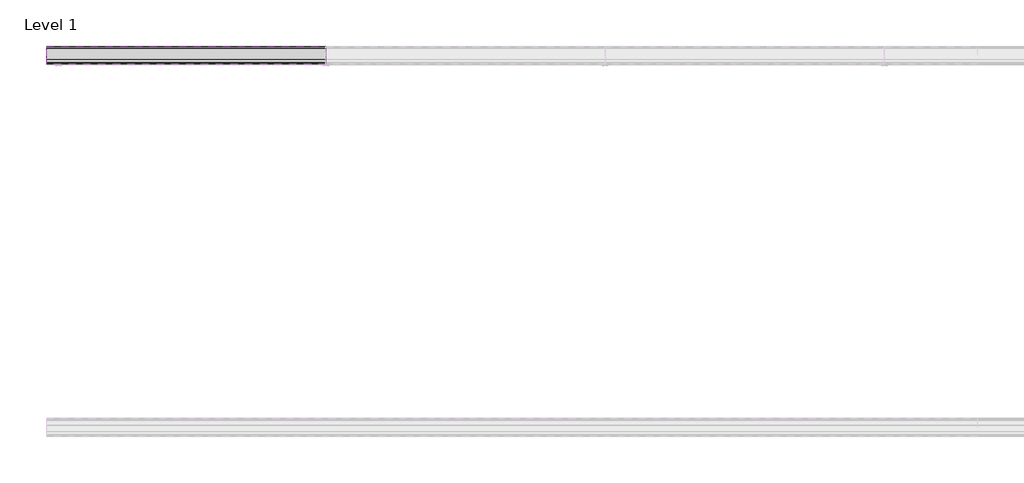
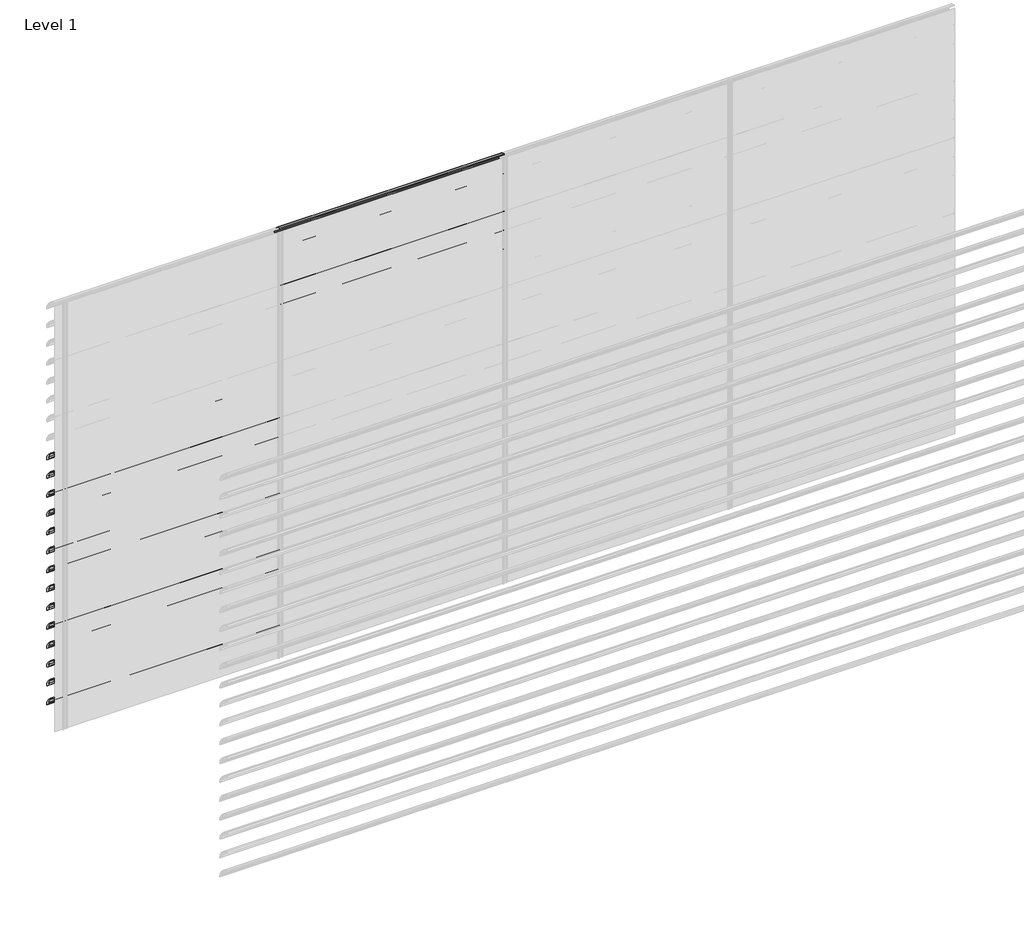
# One storey, part 54 of 57: 21 proxies.
"""IFC4 building model written with IfcOpenShell, lengths in millimetres."""

from ifc_helpers import new_model, si_unit, point, frame, frame_2d, origin, place, context, project, spatial, polyline, circle_curve, trimmed, segment, composite_curve, outline, extrude, element, save

model = new_model("IFC4")

# Units and contexts
model_context = context("Model", 3, world=origin())
ifc_project = project(units=[si_unit("LENGTHUNIT", "METRE", prefix="MILLI")], contexts=[model_context])

# Site, building, storey
site = spatial("IfcSite", under=ifc_project)
building = spatial("IfcBuilding", under=site)
storey = spatial("IfcBuildingStorey", under=building, Name="Level 1", Elevation=0.0)

# Proxies
placement = place(None, origin())
element("IfcBuildingElementProxy", 1, Name="Wall Sweeps", at=placement, inside=storey, context=model_context, shape_type="SweptSolid", body=[
    extrude(outline(composite_curve([segment(trimmed(circle_curve(frame_2d((6.2177474, 1952.4913792)), 4.2177474), [point((10.3014394, 1953.5462976))], [point((6.2177474, 1956.7091266))], False, "CARTESIAN"), True, "CONTINUOUS"), segment(trimmed(circle_curve(frame_2d((-18.7150834, 1854.2536312)), 105.4456002), [point((6.2177474, 1956.7091266))], [point((28.2085702, 1948.6832099))], False, "CARTESIAN"), True, "CONTINUOUS"), segment(trimmed(circle_curve(frame_2d((-61.7199745, 1800.0352476)), 173.7335887), [point((28.2085702, 1948.6832099))], [point((86.9279879, 1889.9637922))], False, "CARTESIAN"), True, "CONTINUOUS"), segment(trimmed(circle_curve(frame_2d((-4.9297178, 1838.1860314)), 105.4456002), [point((86.9279879, 1889.9637922))], [point((96.3750384, 1867.4455765))], False, "CARTESIAN"), True, "CONTINUOUS"), segment(trimmed(circle_curve(frame_2d((92.190263, 1866.3307305)), 4.3307305), [point((96.3750384, 1867.4455765))], [point((90.9230804, 1862.189538))], False, "CARTESIAN"), True, "CONTINUOUS"), segment(polyline([(90.9230804, 1862.189538), (65.2598016, 1886.9722783)]), True, "CONTINUOUS"), segment(trimmed(circle_curve(frame_2d((68.6120426, 1889.2977626)), 4.079877), [point((65.2598016, 1886.9722783))], [point((69.2689403, 1893.3244091))], False, "CARTESIAN"), True, "CONTINUOUS"), segment(trimmed(circle_curve(frame_2d((-14.6665585, 1871.2544323)), 86.7885467), [point((69.2689403, 1893.3244091))], [point((57.6971649, 1919.1683485))], True, "CARTESIAN"), True, "CONTINUOUS"), segment(polyline([(57.6971649, 1919.1683485), (59.2769901, 1921.9046861)]), True, "CONTINUOUS"), segment(trimmed(circle_curve(frame_2d((-61.7199745, 1800.0352476)), 171.7335887), [point((59.2769901, 1921.9046861))], [point((27.2444128, 1946.9289618))], True, "CARTESIAN"), True, "CONTINUOUS"), segment(trimmed(circle_curve(frame_2d((-18.7150834, 1854.2536312)), 103.4456002), [point((27.2444128, 1946.9289618))], [point((10.3014394, 1953.5462976))], True, "CARTESIAN"), True, "CONTINUOUS")], self_intersect=False)), frame((0.0, 0.0, 0.0), z_axis=(1.0, 0.0, 0.0), x_axis=(0.0, 1.0, 0.0)), (0.0, 0.0, 1.0), 1500.0),
])
element("IfcBuildingElementProxy", 2, Name="Wall Sweeps", at=placement, inside=storey, context=model_context, shape_type="SweptSolid", body=[
    extrude(outline(composite_curve([segment(trimmed(circle_curve(frame_2d((6.2177474, 1819.4913792)), 4.2177474), [point((10.3014394, 1820.5462976))], [point((6.2177474, 1823.7091266))], False, "CARTESIAN"), True, "CONTINUOUS"), segment(trimmed(circle_curve(frame_2d((-18.7150834, 1721.2536312)), 105.4456002), [point((6.2177474, 1823.7091266))], [point((28.2085702, 1815.6832099))], False, "CARTESIAN"), True, "CONTINUOUS"), segment(trimmed(circle_curve(frame_2d((-61.7199745, 1667.0352476)), 173.7335887), [point((28.2085702, 1815.6832099))], [point((86.9279879, 1756.9637922))], False, "CARTESIAN"), True, "CONTINUOUS"), segment(trimmed(circle_curve(frame_2d((-4.9297178, 1705.1860314)), 105.4456002), [point((86.9279879, 1756.9637922))], [point((96.3750384, 1734.4455765))], False, "CARTESIAN"), True, "CONTINUOUS"), segment(trimmed(circle_curve(frame_2d((92.190263, 1733.3307305)), 4.3307305), [point((96.3750384, 1734.4455765))], [point((90.9230804, 1729.189538))], False, "CARTESIAN"), True, "CONTINUOUS"), segment(polyline([(90.9230804, 1729.189538), (65.2598016, 1753.9722783)]), True, "CONTINUOUS"), segment(trimmed(circle_curve(frame_2d((68.6120426, 1756.2977626)), 4.079877), [point((65.2598016, 1753.9722783))], [point((69.2689403, 1760.3244091))], False, "CARTESIAN"), True, "CONTINUOUS"), segment(trimmed(circle_curve(frame_2d((-14.6665585, 1738.2544323)), 86.7885467), [point((69.2689403, 1760.3244091))], [point((57.6971649, 1786.1683485))], True, "CARTESIAN"), True, "CONTINUOUS"), segment(polyline([(57.6971649, 1786.1683485), (59.2769901, 1788.9046861)]), True, "CONTINUOUS"), segment(trimmed(circle_curve(frame_2d((-61.7199745, 1667.0352476)), 171.7335887), [point((59.2769901, 1788.9046861))], [point((27.2444128, 1813.9289618))], True, "CARTESIAN"), True, "CONTINUOUS"), segment(trimmed(circle_curve(frame_2d((-18.7150834, 1721.2536312)), 103.4456002), [point((27.2444128, 1813.9289618))], [point((10.3014394, 1820.5462976))], True, "CARTESIAN"), True, "CONTINUOUS")], self_intersect=False)), frame((0.0, 0.0, 0.0), z_axis=(1.0, 0.0, 0.0), x_axis=(0.0, 1.0, 0.0)), (0.0, 0.0, 1.0), 1500.0),
])
element("IfcBuildingElementProxy", 3, Name="Wall Sweeps", at=placement, inside=storey, context=model_context, shape_type="SweptSolid", body=[
    extrude(outline(composite_curve([segment(trimmed(circle_curve(frame_2d((6.2177474, 1686.4913792)), 4.2177474), [point((10.3014394, 1687.5462976))], [point((6.2177474, 1690.7091266))], False, "CARTESIAN"), True, "CONTINUOUS"), segment(trimmed(circle_curve(frame_2d((-18.7150834, 1588.2536312)), 105.4456002), [point((6.2177474, 1690.7091266))], [point((28.2085702, 1682.6832099))], False, "CARTESIAN"), True, "CONTINUOUS"), segment(trimmed(circle_curve(frame_2d((-61.7199745, 1534.0352476)), 173.7335887), [point((28.2085702, 1682.6832099))], [point((86.9279879, 1623.9637922))], False, "CARTESIAN"), True, "CONTINUOUS"), segment(trimmed(circle_curve(frame_2d((-4.9297178, 1572.1860314)), 105.4456002), [point((86.9279879, 1623.9637922))], [point((96.3750384, 1601.4455765))], False, "CARTESIAN"), True, "CONTINUOUS"), segment(trimmed(circle_curve(frame_2d((92.190263, 1600.3307305)), 4.3307305), [point((96.3750384, 1601.4455765))], [point((90.9230804, 1596.189538))], False, "CARTESIAN"), True, "CONTINUOUS"), segment(polyline([(90.9230804, 1596.189538), (65.2598016, 1620.9722783)]), True, "CONTINUOUS"), segment(trimmed(circle_curve(frame_2d((68.6120426, 1623.2977626)), 4.079877), [point((65.2598016, 1620.9722783))], [point((69.2689403, 1627.3244091))], False, "CARTESIAN"), True, "CONTINUOUS"), segment(trimmed(circle_curve(frame_2d((-14.6665585, 1605.2544323)), 86.7885467), [point((69.2689403, 1627.3244091))], [point((57.6971649, 1653.1683485))], True, "CARTESIAN"), True, "CONTINUOUS"), segment(polyline([(57.6971649, 1653.1683485), (59.2769901, 1655.9046861)]), True, "CONTINUOUS"), segment(trimmed(circle_curve(frame_2d((-61.7199745, 1534.0352476)), 171.7335887), [point((59.2769901, 1655.9046861))], [point((27.2444128, 1680.9289618))], True, "CARTESIAN"), True, "CONTINUOUS"), segment(trimmed(circle_curve(frame_2d((-18.7150834, 1588.2536312)), 103.4456002), [point((27.2444128, 1680.9289618))], [point((10.3014394, 1687.5462976))], True, "CARTESIAN"), True, "CONTINUOUS")], self_intersect=False)), frame((0.0, 0.0, 0.0), z_axis=(1.0, 0.0, 0.0), x_axis=(0.0, 1.0, 0.0)), (0.0, 0.0, 1.0), 1500.0),
])
element("IfcBuildingElementProxy", 4, Name="Wall Sweeps", at=placement, inside=storey, context=model_context, shape_type="SweptSolid", body=[
    extrude(outline(composite_curve([segment(trimmed(circle_curve(frame_2d((6.2177474, 1553.4913792)), 4.2177474), [point((10.3014394, 1554.5462976))], [point((6.2177474, 1557.7091266))], False, "CARTESIAN"), True, "CONTINUOUS"), segment(trimmed(circle_curve(frame_2d((-18.7150834, 1455.2536312)), 105.4456002), [point((6.2177474, 1557.7091266))], [point((28.2085702, 1549.6832099))], False, "CARTESIAN"), True, "CONTINUOUS"), segment(trimmed(circle_curve(frame_2d((-61.7199745, 1401.0352476)), 173.7335887), [point((28.2085702, 1549.6832099))], [point((86.9279879, 1490.9637922))], False, "CARTESIAN"), True, "CONTINUOUS"), segment(trimmed(circle_curve(frame_2d((-4.9297178, 1439.1860314)), 105.4456002), [point((86.9279879, 1490.9637922))], [point((96.3750384, 1468.4455765))], False, "CARTESIAN"), True, "CONTINUOUS"), segment(trimmed(circle_curve(frame_2d((92.190263, 1467.3307305)), 4.3307305), [point((96.3750384, 1468.4455765))], [point((90.9230804, 1463.189538))], False, "CARTESIAN"), True, "CONTINUOUS"), segment(polyline([(90.9230804, 1463.189538), (65.2598016, 1487.9722783)]), True, "CONTINUOUS"), segment(trimmed(circle_curve(frame_2d((68.6120426, 1490.2977626)), 4.079877), [point((65.2598016, 1487.9722783))], [point((69.2689403, 1494.3244091))], False, "CARTESIAN"), True, "CONTINUOUS"), segment(trimmed(circle_curve(frame_2d((-14.6665585, 1472.2544323)), 86.7885467), [point((69.2689403, 1494.3244091))], [point((57.6971649, 1520.1683485))], True, "CARTESIAN"), True, "CONTINUOUS"), segment(polyline([(57.6971649, 1520.1683485), (59.2769901, 1522.9046861)]), True, "CONTINUOUS"), segment(trimmed(circle_curve(frame_2d((-61.7199745, 1401.0352476)), 171.7335887), [point((59.2769901, 1522.9046861))], [point((27.2444128, 1547.9289618))], True, "CARTESIAN"), True, "CONTINUOUS"), segment(trimmed(circle_curve(frame_2d((-18.7150834, 1455.2536312)), 103.4456002), [point((27.2444128, 1547.9289618))], [point((10.3014394, 1554.5462976))], True, "CARTESIAN"), True, "CONTINUOUS")], self_intersect=False)), frame((0.0, 0.0, 0.0), z_axis=(1.0, 0.0, 0.0), x_axis=(0.0, 1.0, 0.0)), (0.0, 0.0, 1.0), 1500.0),
])
element("IfcBuildingElementProxy", 5, Name="Wall Sweeps", at=placement, inside=storey, context=model_context, shape_type="SweptSolid", body=[
    extrude(outline(composite_curve([segment(trimmed(circle_curve(frame_2d((6.2177474, 1420.4913792)), 4.2177474), [point((10.3014394, 1421.5462976))], [point((6.2177474, 1424.7091266))], False, "CARTESIAN"), True, "CONTINUOUS"), segment(trimmed(circle_curve(frame_2d((-18.7150834, 1322.2536312)), 105.4456002), [point((6.2177474, 1424.7091266))], [point((28.2085702, 1416.6832099))], False, "CARTESIAN"), True, "CONTINUOUS"), segment(trimmed(circle_curve(frame_2d((-61.7199745, 1268.0352476)), 173.7335887), [point((28.2085702, 1416.6832099))], [point((86.9279879, 1357.9637922))], False, "CARTESIAN"), True, "CONTINUOUS"), segment(trimmed(circle_curve(frame_2d((-4.9297178, 1306.1860314)), 105.4456002), [point((86.9279879, 1357.9637922))], [point((96.3750384, 1335.4455765))], False, "CARTESIAN"), True, "CONTINUOUS"), segment(trimmed(circle_curve(frame_2d((92.190263, 1334.3307305)), 4.3307305), [point((96.3750384, 1335.4455765))], [point((90.9230804, 1330.189538))], False, "CARTESIAN"), True, "CONTINUOUS"), segment(polyline([(90.9230804, 1330.189538), (65.2598016, 1354.9722783)]), True, "CONTINUOUS"), segment(trimmed(circle_curve(frame_2d((68.6120426, 1357.2977626)), 4.079877), [point((65.2598016, 1354.9722783))], [point((69.2689403, 1361.3244091))], False, "CARTESIAN"), True, "CONTINUOUS"), segment(trimmed(circle_curve(frame_2d((-14.6665585, 1339.2544323)), 86.7885467), [point((69.2689403, 1361.3244091))], [point((57.6971649, 1387.1683485))], True, "CARTESIAN"), True, "CONTINUOUS"), segment(polyline([(57.6971649, 1387.1683485), (59.2769901, 1389.9046861)]), True, "CONTINUOUS"), segment(trimmed(circle_curve(frame_2d((-61.7199745, 1268.0352476)), 171.7335887), [point((59.2769901, 1389.9046861))], [point((27.2444128, 1414.9289618))], True, "CARTESIAN"), True, "CONTINUOUS"), segment(trimmed(circle_curve(frame_2d((-18.7150834, 1322.2536312)), 103.4456002), [point((27.2444128, 1414.9289618))], [point((10.3014394, 1421.5462976))], True, "CARTESIAN"), True, "CONTINUOUS")], self_intersect=False)), frame((0.0, 0.0, 0.0), z_axis=(1.0, 0.0, 0.0), x_axis=(0.0, 1.0, 0.0)), (0.0, 0.0, 1.0), 1500.0),
])
element("IfcBuildingElementProxy", 6, Name="Wall Sweeps", at=placement, inside=storey, context=model_context, shape_type="SweptSolid", body=[
    extrude(outline(composite_curve([segment(trimmed(circle_curve(frame_2d((6.2177474, 1287.4913792)), 4.2177474), [point((10.3014394, 1288.5462976))], [point((6.2177474, 1291.7091266))], False, "CARTESIAN"), True, "CONTINUOUS"), segment(trimmed(circle_curve(frame_2d((-18.7150834, 1189.2536312)), 105.4456002), [point((6.2177474, 1291.7091266))], [point((28.2085702, 1283.6832099))], False, "CARTESIAN"), True, "CONTINUOUS"), segment(trimmed(circle_curve(frame_2d((-61.7199745, 1135.0352476)), 173.7335887), [point((28.2085702, 1283.6832099))], [point((86.9279879, 1224.9637922))], False, "CARTESIAN"), True, "CONTINUOUS"), segment(trimmed(circle_curve(frame_2d((-4.9297178, 1173.1860314)), 105.4456002), [point((86.9279879, 1224.9637922))], [point((96.3750384, 1202.4455765))], False, "CARTESIAN"), True, "CONTINUOUS"), segment(trimmed(circle_curve(frame_2d((92.190263, 1201.3307305)), 4.3307305), [point((96.3750384, 1202.4455765))], [point((90.9230804, 1197.189538))], False, "CARTESIAN"), True, "CONTINUOUS"), segment(polyline([(90.9230804, 1197.189538), (65.2598016, 1221.9722783)]), True, "CONTINUOUS"), segment(trimmed(circle_curve(frame_2d((68.6120426, 1224.2977626)), 4.079877), [point((65.2598016, 1221.9722783))], [point((69.2689403, 1228.3244091))], False, "CARTESIAN"), True, "CONTINUOUS"), segment(trimmed(circle_curve(frame_2d((-14.6665585, 1206.2544323)), 86.7885467), [point((69.2689403, 1228.3244091))], [point((57.6971649, 1254.1683485))], True, "CARTESIAN"), True, "CONTINUOUS"), segment(polyline([(57.6971649, 1254.1683485), (59.2769901, 1256.9046861)]), True, "CONTINUOUS"), segment(trimmed(circle_curve(frame_2d((-61.7199745, 1135.0352476)), 171.7335887), [point((59.2769901, 1256.9046861))], [point((27.2444128, 1281.9289618))], True, "CARTESIAN"), True, "CONTINUOUS"), segment(trimmed(circle_curve(frame_2d((-18.7150834, 1189.2536312)), 103.4456002), [point((27.2444128, 1281.9289618))], [point((10.3014394, 1288.5462976))], True, "CARTESIAN"), True, "CONTINUOUS")], self_intersect=False)), frame((0.0, 0.0, 0.0), z_axis=(1.0, 0.0, 0.0), x_axis=(0.0, 1.0, 0.0)), (0.0, 0.0, 1.0), 1500.0),
])
element("IfcBuildingElementProxy", 7, Name="Wall Sweeps", at=placement, inside=storey, context=model_context, shape_type="SweptSolid", body=[
    extrude(outline(composite_curve([segment(trimmed(circle_curve(frame_2d((6.2177474, 1154.4913792)), 4.2177474), [point((10.3014394, 1155.5462976))], [point((6.2177474, 1158.7091266))], False, "CARTESIAN"), True, "CONTINUOUS"), segment(trimmed(circle_curve(frame_2d((-18.7150834, 1056.2536312)), 105.4456002), [point((6.2177474, 1158.7091266))], [point((28.2085702, 1150.6832099))], False, "CARTESIAN"), True, "CONTINUOUS"), segment(trimmed(circle_curve(frame_2d((-61.7199745, 1002.0352476)), 173.7335887), [point((28.2085702, 1150.6832099))], [point((86.9279879, 1091.9637922))], False, "CARTESIAN"), True, "CONTINUOUS"), segment(trimmed(circle_curve(frame_2d((-4.9297178, 1040.1860314)), 105.4456002), [point((86.9279879, 1091.9637922))], [point((96.3750384, 1069.4455765))], False, "CARTESIAN"), True, "CONTINUOUS"), segment(trimmed(circle_curve(frame_2d((92.190263, 1068.3307305)), 4.3307305), [point((96.3750384, 1069.4455765))], [point((90.9230804, 1064.189538))], False, "CARTESIAN"), True, "CONTINUOUS"), segment(polyline([(90.9230804, 1064.189538), (65.2598016, 1088.9722783)]), True, "CONTINUOUS"), segment(trimmed(circle_curve(frame_2d((68.6120426, 1091.2977626)), 4.079877), [point((65.2598016, 1088.9722783))], [point((69.2689403, 1095.3244091))], False, "CARTESIAN"), True, "CONTINUOUS"), segment(trimmed(circle_curve(frame_2d((-14.6665585, 1073.2544323)), 86.7885467), [point((69.2689403, 1095.3244091))], [point((57.6971649, 1121.1683485))], True, "CARTESIAN"), True, "CONTINUOUS"), segment(polyline([(57.6971649, 1121.1683485), (59.2769901, 1123.9046861)]), True, "CONTINUOUS"), segment(trimmed(circle_curve(frame_2d((-61.7199745, 1002.0352476)), 171.7335887), [point((59.2769901, 1123.9046861))], [point((27.2444128, 1148.9289618))], True, "CARTESIAN"), True, "CONTINUOUS"), segment(trimmed(circle_curve(frame_2d((-18.7150834, 1056.2536312)), 103.4456002), [point((27.2444128, 1148.9289618))], [point((10.3014394, 1155.5462976))], True, "CARTESIAN"), True, "CONTINUOUS")], self_intersect=False)), frame((0.0, 0.0, 0.0), z_axis=(1.0, 0.0, 0.0), x_axis=(0.0, 1.0, 0.0)), (0.0, 0.0, 1.0), 1500.0),
])
element("IfcBuildingElementProxy", 8, Name="Wall Sweeps", at=placement, inside=storey, context=model_context, shape_type="SweptSolid", body=[
    extrude(outline(composite_curve([segment(trimmed(circle_curve(frame_2d((6.2177474, 1021.4913792)), 4.2177474), [point((10.3014394, 1022.5462976))], [point((6.2177474, 1025.7091266))], False, "CARTESIAN"), True, "CONTINUOUS"), segment(trimmed(circle_curve(frame_2d((-18.7150834, 923.2536312)), 105.4456002), [point((6.2177474, 1025.7091266))], [point((28.2085702, 1017.6832099))], False, "CARTESIAN"), True, "CONTINUOUS"), segment(trimmed(circle_curve(frame_2d((-61.7199745, 869.0352476)), 173.7335887), [point((28.2085702, 1017.6832099))], [point((86.9279879, 958.9637922))], False, "CARTESIAN"), True, "CONTINUOUS"), segment(trimmed(circle_curve(frame_2d((-4.9297178, 907.1860314)), 105.4456002), [point((86.9279879, 958.9637922))], [point((96.3750384, 936.4455765))], False, "CARTESIAN"), True, "CONTINUOUS"), segment(trimmed(circle_curve(frame_2d((92.190263, 935.3307305)), 4.3307305), [point((96.3750384, 936.4455765))], [point((90.9230804, 931.189538))], False, "CARTESIAN"), True, "CONTINUOUS"), segment(polyline([(90.9230804, 931.189538), (65.2598016, 955.9722783)]), True, "CONTINUOUS"), segment(trimmed(circle_curve(frame_2d((68.6120426, 958.2977626)), 4.079877), [point((65.2598016, 955.9722783))], [point((69.2689403, 962.3244091))], False, "CARTESIAN"), True, "CONTINUOUS"), segment(trimmed(circle_curve(frame_2d((-14.6665585, 940.2544323)), 86.7885467), [point((69.2689403, 962.3244091))], [point((57.6971649, 988.1683485))], True, "CARTESIAN"), True, "CONTINUOUS"), segment(polyline([(57.6971649, 988.1683485), (59.2769901, 990.9046861)]), True, "CONTINUOUS"), segment(trimmed(circle_curve(frame_2d((-61.7199745, 869.0352476)), 171.7335887), [point((59.2769901, 990.9046861))], [point((27.2444128, 1015.9289618))], True, "CARTESIAN"), True, "CONTINUOUS"), segment(trimmed(circle_curve(frame_2d((-18.7150834, 923.2536312)), 103.4456002), [point((27.2444128, 1015.9289618))], [point((10.3014394, 1022.5462976))], True, "CARTESIAN"), True, "CONTINUOUS")], self_intersect=False)), frame((0.0, 0.0, 0.0), z_axis=(1.0, 0.0, 0.0), x_axis=(0.0, 1.0, 0.0)), (0.0, 0.0, 1.0), 1500.0),
])
element("IfcBuildingElementProxy", 9, Name="Wall Sweeps", at=placement, inside=storey, context=model_context, shape_type="SweptSolid", body=[
    extrude(outline(composite_curve([segment(trimmed(circle_curve(frame_2d((6.2177474, 888.4913792)), 4.2177474), [point((10.3014394, 889.5462976))], [point((6.2177474, 892.7091266))], False, "CARTESIAN"), True, "CONTINUOUS"), segment(trimmed(circle_curve(frame_2d((-18.7150834, 790.2536312)), 105.4456002), [point((6.2177474, 892.7091266))], [point((28.2085702, 884.6832099))], False, "CARTESIAN"), True, "CONTINUOUS"), segment(trimmed(circle_curve(frame_2d((-61.7199745, 736.0352476)), 173.7335887), [point((28.2085702, 884.6832099))], [point((86.9279879, 825.9637922))], False, "CARTESIAN"), True, "CONTINUOUS"), segment(trimmed(circle_curve(frame_2d((-4.9297178, 774.1860314)), 105.4456002), [point((86.9279879, 825.9637922))], [point((96.3750384, 803.4455765))], False, "CARTESIAN"), True, "CONTINUOUS"), segment(trimmed(circle_curve(frame_2d((92.190263, 802.3307305)), 4.3307305), [point((96.3750384, 803.4455765))], [point((90.9230804, 798.189538))], False, "CARTESIAN"), True, "CONTINUOUS"), segment(polyline([(90.9230804, 798.189538), (65.2598016, 822.9722783)]), True, "CONTINUOUS"), segment(trimmed(circle_curve(frame_2d((68.6120426, 825.2977626)), 4.079877), [point((65.2598016, 822.9722783))], [point((69.2689403, 829.3244091))], False, "CARTESIAN"), True, "CONTINUOUS"), segment(trimmed(circle_curve(frame_2d((-14.6665585, 807.2544323)), 86.7885467), [point((69.2689403, 829.3244091))], [point((57.6971649, 855.1683485))], True, "CARTESIAN"), True, "CONTINUOUS"), segment(polyline([(57.6971649, 855.1683485), (59.2769901, 857.9046861)]), True, "CONTINUOUS"), segment(trimmed(circle_curve(frame_2d((-61.7199745, 736.0352476)), 171.7335887), [point((59.2769901, 857.9046861))], [point((27.2444128, 882.9289618))], True, "CARTESIAN"), True, "CONTINUOUS"), segment(trimmed(circle_curve(frame_2d((-18.7150834, 790.2536312)), 103.4456002), [point((27.2444128, 882.9289618))], [point((10.3014394, 889.5462976))], True, "CARTESIAN"), True, "CONTINUOUS")], self_intersect=False)), frame((0.0, 0.0, 0.0), z_axis=(1.0, 0.0, 0.0), x_axis=(0.0, 1.0, 0.0)), (0.0, 0.0, 1.0), 1500.0),
])
element("IfcBuildingElementProxy", 10, Name="Wall Sweeps", at=placement, inside=storey, context=model_context, shape_type="SweptSolid", body=[
    extrude(outline(composite_curve([segment(trimmed(circle_curve(frame_2d((6.2177474, 755.4913792)), 4.2177474), [point((10.3014394, 756.5462976))], [point((6.2177474, 759.7091266))], False, "CARTESIAN"), True, "CONTINUOUS"), segment(trimmed(circle_curve(frame_2d((-18.7150834, 657.2536312)), 105.4456002), [point((6.2177474, 759.7091266))], [point((28.2085702, 751.6832099))], False, "CARTESIAN"), True, "CONTINUOUS"), segment(trimmed(circle_curve(frame_2d((-61.7199745, 603.0352476)), 173.7335887), [point((28.2085702, 751.6832099))], [point((86.9279879, 692.9637922))], False, "CARTESIAN"), True, "CONTINUOUS"), segment(trimmed(circle_curve(frame_2d((-4.9297178, 641.1860314)), 105.4456002), [point((86.9279879, 692.9637922))], [point((96.3750384, 670.4455765))], False, "CARTESIAN"), True, "CONTINUOUS"), segment(trimmed(circle_curve(frame_2d((92.190263, 669.3307305)), 4.3307305), [point((96.3750384, 670.4455765))], [point((90.9230804, 665.189538))], False, "CARTESIAN"), True, "CONTINUOUS"), segment(polyline([(90.9230804, 665.189538), (65.2598016, 689.9722783)]), True, "CONTINUOUS"), segment(trimmed(circle_curve(frame_2d((68.6120426, 692.2977626)), 4.079877), [point((65.2598016, 689.9722783))], [point((69.2689403, 696.3244091))], False, "CARTESIAN"), True, "CONTINUOUS"), segment(trimmed(circle_curve(frame_2d((-14.6665585, 674.2544323)), 86.7885467), [point((69.2689403, 696.3244091))], [point((57.6971649, 722.1683485))], True, "CARTESIAN"), True, "CONTINUOUS"), segment(polyline([(57.6971649, 722.1683485), (59.2769901, 724.9046861)]), True, "CONTINUOUS"), segment(trimmed(circle_curve(frame_2d((-61.7199745, 603.0352476)), 171.7335887), [point((59.2769901, 724.9046861))], [point((27.2444128, 749.9289618))], True, "CARTESIAN"), True, "CONTINUOUS"), segment(trimmed(circle_curve(frame_2d((-18.7150834, 657.2536312)), 103.4456002), [point((27.2444128, 749.9289618))], [point((10.3014394, 756.5462976))], True, "CARTESIAN"), True, "CONTINUOUS")], self_intersect=False)), frame((0.0, 0.0, 0.0), z_axis=(1.0, 0.0, 0.0), x_axis=(0.0, 1.0, 0.0)), (0.0, 0.0, 1.0), 1500.0),
])
element("IfcBuildingElementProxy", 11, Name="Wall Sweeps", at=placement, inside=storey, context=model_context, shape_type="SweptSolid", body=[
    extrude(outline(composite_curve([segment(trimmed(circle_curve(frame_2d((6.2177474, 622.4913792)), 4.2177474), [point((10.3014394, 623.5462976))], [point((6.2177474, 626.7091266))], False, "CARTESIAN"), True, "CONTINUOUS"), segment(trimmed(circle_curve(frame_2d((-18.7150834, 524.2536312)), 105.4456002), [point((6.2177474, 626.7091266))], [point((28.2085702, 618.6832099))], False, "CARTESIAN"), True, "CONTINUOUS"), segment(trimmed(circle_curve(frame_2d((-61.7199745, 470.0352476)), 173.7335887), [point((28.2085702, 618.6832099))], [point((86.9279879, 559.9637922))], False, "CARTESIAN"), True, "CONTINUOUS"), segment(trimmed(circle_curve(frame_2d((-4.9297178, 508.1860314)), 105.4456002), [point((86.9279879, 559.9637922))], [point((96.3750384, 537.4455765))], False, "CARTESIAN"), True, "CONTINUOUS"), segment(trimmed(circle_curve(frame_2d((92.190263, 536.3307305)), 4.3307305), [point((96.3750384, 537.4455765))], [point((90.9230804, 532.189538))], False, "CARTESIAN"), True, "CONTINUOUS"), segment(polyline([(90.9230804, 532.189538), (65.2598016, 556.9722783)]), True, "CONTINUOUS"), segment(trimmed(circle_curve(frame_2d((68.6120426, 559.2977626)), 4.079877), [point((65.2598016, 556.9722783))], [point((69.2689403, 563.3244091))], False, "CARTESIAN"), True, "CONTINUOUS"), segment(trimmed(circle_curve(frame_2d((-14.6665585, 541.2544323)), 86.7885467), [point((69.2689403, 563.3244091))], [point((57.6971649, 589.1683485))], True, "CARTESIAN"), True, "CONTINUOUS"), segment(polyline([(57.6971649, 589.1683485), (59.2769901, 591.9046861)]), True, "CONTINUOUS"), segment(trimmed(circle_curve(frame_2d((-61.7199745, 470.0352476)), 171.7335887), [point((59.2769901, 591.9046861))], [point((27.2444128, 616.9289618))], True, "CARTESIAN"), True, "CONTINUOUS"), segment(trimmed(circle_curve(frame_2d((-18.7150834, 524.2536312)), 103.4456002), [point((27.2444128, 616.9289618))], [point((10.3014394, 623.5462976))], True, "CARTESIAN"), True, "CONTINUOUS")], self_intersect=False)), frame((0.0, 0.0, 0.0), z_axis=(1.0, 0.0, 0.0), x_axis=(0.0, 1.0, 0.0)), (0.0, 0.0, 1.0), 1500.0),
])
element("IfcBuildingElementProxy", 12, Name="Wall Sweeps", at=placement, inside=storey, context=model_context, shape_type="SweptSolid", body=[
    extrude(outline(composite_curve([segment(trimmed(circle_curve(frame_2d((6.2177474, 489.4913792)), 4.2177474), [point((10.3014394, 490.5462976))], [point((6.2177474, 493.7091266))], False, "CARTESIAN"), True, "CONTINUOUS"), segment(trimmed(circle_curve(frame_2d((-18.7150834, 391.2536312)), 105.4456002), [point((6.2177474, 493.7091266))], [point((28.2085702, 485.6832099))], False, "CARTESIAN"), True, "CONTINUOUS"), segment(trimmed(circle_curve(frame_2d((-61.7199745, 337.0352476)), 173.7335887), [point((28.2085702, 485.6832099))], [point((86.9279879, 426.9637922))], False, "CARTESIAN"), True, "CONTINUOUS"), segment(trimmed(circle_curve(frame_2d((-4.9297178, 375.1860314)), 105.4456002), [point((86.9279879, 426.9637922))], [point((96.3750384, 404.4455765))], False, "CARTESIAN"), True, "CONTINUOUS"), segment(trimmed(circle_curve(frame_2d((92.190263, 403.3307305)), 4.3307305), [point((96.3750384, 404.4455765))], [point((90.9230804, 399.189538))], False, "CARTESIAN"), True, "CONTINUOUS"), segment(polyline([(90.9230804, 399.189538), (65.2598016, 423.9722783)]), True, "CONTINUOUS"), segment(trimmed(circle_curve(frame_2d((68.6120426, 426.2977626)), 4.079877), [point((65.2598016, 423.9722783))], [point((69.2689403, 430.3244091))], False, "CARTESIAN"), True, "CONTINUOUS"), segment(trimmed(circle_curve(frame_2d((-14.6665585, 408.2544323)), 86.7885467), [point((69.2689403, 430.3244091))], [point((57.6971649, 456.1683485))], True, "CARTESIAN"), True, "CONTINUOUS"), segment(polyline([(57.6971649, 456.1683485), (59.2769901, 458.9046861)]), True, "CONTINUOUS"), segment(trimmed(circle_curve(frame_2d((-61.7199745, 337.0352476)), 171.7335887), [point((59.2769901, 458.9046861))], [point((27.2444128, 483.9289618))], True, "CARTESIAN"), True, "CONTINUOUS"), segment(trimmed(circle_curve(frame_2d((-18.7150834, 391.2536312)), 103.4456002), [point((27.2444128, 483.9289618))], [point((10.3014394, 490.5462976))], True, "CARTESIAN"), True, "CONTINUOUS")], self_intersect=False)), frame((0.0, 0.0, 0.0), z_axis=(1.0, 0.0, 0.0), x_axis=(0.0, 1.0, 0.0)), (0.0, 0.0, 1.0), 1500.0),
])
element("IfcBuildingElementProxy", 13, Name="Wall Sweeps", at=placement, inside=storey, context=model_context, shape_type="SweptSolid", body=[
    extrude(outline(composite_curve([segment(trimmed(circle_curve(frame_2d((6.2177474, 356.4913792)), 4.2177474), [point((10.3014394, 357.5462976))], [point((6.2177474, 360.7091266))], False, "CARTESIAN"), True, "CONTINUOUS"), segment(trimmed(circle_curve(frame_2d((-18.7150834, 258.2536312)), 105.4456002), [point((6.2177474, 360.7091266))], [point((28.2085702, 352.6832099))], False, "CARTESIAN"), True, "CONTINUOUS"), segment(trimmed(circle_curve(frame_2d((-61.7199745, 204.0352476)), 173.7335887), [point((28.2085702, 352.6832099))], [point((86.9279879, 293.9637922))], False, "CARTESIAN"), True, "CONTINUOUS"), segment(trimmed(circle_curve(frame_2d((-4.9297178, 242.1860314)), 105.4456002), [point((86.9279879, 293.9637922))], [point((96.3750384, 271.4455765))], False, "CARTESIAN"), True, "CONTINUOUS"), segment(trimmed(circle_curve(frame_2d((92.190263, 270.3307305)), 4.3307305), [point((96.3750384, 271.4455765))], [point((90.9230804, 266.189538))], False, "CARTESIAN"), True, "CONTINUOUS"), segment(polyline([(90.9230804, 266.189538), (65.2598016, 290.9722783)]), True, "CONTINUOUS"), segment(trimmed(circle_curve(frame_2d((68.6120426, 293.2977626)), 4.079877), [point((65.2598016, 290.9722783))], [point((69.2689403, 297.3244091))], False, "CARTESIAN"), True, "CONTINUOUS"), segment(trimmed(circle_curve(frame_2d((-14.6665585, 275.2544323)), 86.7885467), [point((69.2689403, 297.3244091))], [point((57.6971649, 323.1683485))], True, "CARTESIAN"), True, "CONTINUOUS"), segment(polyline([(57.6971649, 323.1683485), (59.2769901, 325.9046861)]), True, "CONTINUOUS"), segment(trimmed(circle_curve(frame_2d((-61.7199745, 204.0352476)), 171.7335887), [point((59.2769901, 325.9046861))], [point((27.2444128, 350.9289618))], True, "CARTESIAN"), True, "CONTINUOUS"), segment(trimmed(circle_curve(frame_2d((-18.7150834, 258.2536312)), 103.4456002), [point((27.2444128, 350.9289618))], [point((10.3014394, 357.5462976))], True, "CARTESIAN"), True, "CONTINUOUS")], self_intersect=False)), frame((0.0, 0.0, 0.0), z_axis=(1.0, 0.0, 0.0), x_axis=(0.0, 1.0, 0.0)), (0.0, 0.0, 1.0), 1500.0),
])
element("IfcBuildingElementProxy", 14, Name="Wall Sweeps", at=placement, inside=storey, context=model_context, shape_type="SweptSolid", body=[
    extrude(outline(composite_curve([segment(trimmed(circle_curve(frame_2d((6.2177474, 223.4913792)), 4.2177474), [point((10.3014394, 224.5462976))], [point((6.2177474, 227.7091266))], False, "CARTESIAN"), True, "CONTINUOUS"), segment(trimmed(circle_curve(frame_2d((-18.7150834, 125.2536312)), 105.4456002), [point((6.2177474, 227.7091266))], [point((28.2085702, 219.6832099))], False, "CARTESIAN"), True, "CONTINUOUS"), segment(trimmed(circle_curve(frame_2d((-61.7199745, 71.0352476)), 173.7335887), [point((28.2085702, 219.6832099))], [point((86.9279879, 160.9637922))], False, "CARTESIAN"), True, "CONTINUOUS"), segment(trimmed(circle_curve(frame_2d((-4.9297178, 109.1860314)), 105.4456002), [point((86.9279879, 160.9637922))], [point((96.3750384, 138.4455765))], False, "CARTESIAN"), True, "CONTINUOUS"), segment(trimmed(circle_curve(frame_2d((92.190263, 137.3307305)), 4.3307305), [point((96.3750384, 138.4455765))], [point((90.9230804, 133.189538))], False, "CARTESIAN"), True, "CONTINUOUS"), segment(polyline([(90.9230804, 133.189538), (65.2598016, 157.9722783)]), True, "CONTINUOUS"), segment(trimmed(circle_curve(frame_2d((68.6120426, 160.2977626)), 4.079877), [point((65.2598016, 157.9722783))], [point((69.2689403, 164.3244091))], False, "CARTESIAN"), True, "CONTINUOUS"), segment(trimmed(circle_curve(frame_2d((-14.6665585, 142.2544323)), 86.7885467), [point((69.2689403, 164.3244091))], [point((57.6971649, 190.1683485))], True, "CARTESIAN"), True, "CONTINUOUS"), segment(polyline([(57.6971649, 190.1683485), (59.2769901, 192.9046861)]), True, "CONTINUOUS"), segment(trimmed(circle_curve(frame_2d((-61.7199745, 71.0352476)), 171.7335887), [point((59.2769901, 192.9046861))], [point((27.2444128, 217.9289618))], True, "CARTESIAN"), True, "CONTINUOUS"), segment(trimmed(circle_curve(frame_2d((-18.7150834, 125.2536312)), 103.4456002), [point((27.2444128, 217.9289618))], [point((10.3014394, 224.5462976))], True, "CARTESIAN"), True, "CONTINUOUS")], self_intersect=False)), frame((0.0, 0.0, 0.0), z_axis=(1.0, 0.0, 0.0), x_axis=(0.0, 1.0, 0.0)), (0.0, 0.0, 1.0), 1500.0),
])
element("IfcBuildingElementProxy", 15, Name="Wall Sweeps", at=placement, inside=storey, context=model_context, shape_type="SweptSolid", body=[
    extrude(outline(composite_curve([segment(trimmed(circle_curve(frame_2d((6.2177474, 3016.4913792)), 4.2177474), [point((10.3014394, 3017.5462976))], [point((6.2177474, 3020.7091266))], False, "CARTESIAN"), True, "CONTINUOUS"), segment(trimmed(circle_curve(frame_2d((-18.7150834, 2918.2536312)), 105.4456002), [point((6.2177474, 3020.7091266))], [point((28.2085702, 3012.6832099))], False, "CARTESIAN"), True, "CONTINUOUS"), segment(trimmed(circle_curve(frame_2d((-61.7199745, 2864.0352476)), 173.7335887), [point((28.2085702, 3012.6832099))], [point((86.9279879, 2953.9637922))], False, "CARTESIAN"), True, "CONTINUOUS"), segment(trimmed(circle_curve(frame_2d((-4.9297178, 2902.1860314)), 105.4456002), [point((86.9279879, 2953.9637922))], [point((96.3750384, 2931.4455765))], False, "CARTESIAN"), True, "CONTINUOUS"), segment(trimmed(circle_curve(frame_2d((92.190263, 2930.3307305)), 4.3307305), [point((96.3750384, 2931.4455765))], [point((90.9230804, 2926.189538))], False, "CARTESIAN"), True, "CONTINUOUS"), segment(polyline([(90.9230804, 2926.189538), (65.2598016, 2950.9722783)]), True, "CONTINUOUS"), segment(trimmed(circle_curve(frame_2d((68.6120426, 2953.2977626)), 4.079877), [point((65.2598016, 2950.9722783))], [point((69.2689403, 2957.3244091))], False, "CARTESIAN"), True, "CONTINUOUS"), segment(trimmed(circle_curve(frame_2d((-14.6665585, 2935.2544323)), 86.7885467), [point((69.2689403, 2957.3244091))], [point((57.6971649, 2983.1683485))], True, "CARTESIAN"), True, "CONTINUOUS"), segment(polyline([(57.6971649, 2983.1683485), (59.2769901, 2985.9046861)]), True, "CONTINUOUS"), segment(trimmed(circle_curve(frame_2d((-61.7199745, 2864.0352476)), 171.7335887), [point((59.2769901, 2985.9046861))], [point((27.2444128, 3010.9289618))], True, "CARTESIAN"), True, "CONTINUOUS"), segment(trimmed(circle_curve(frame_2d((-18.7150834, 2918.2536312)), 103.4456002), [point((27.2444128, 3010.9289618))], [point((10.3014394, 3017.5462976))], True, "CARTESIAN"), True, "CONTINUOUS")], self_intersect=False)), frame((1500.0, 0.0, 0.0), z_axis=(1.0, 0.0, 0.0), x_axis=(0.0, 1.0, 0.0)), (0.0, 0.0, 1.0), 1500.0),
])
element("IfcBuildingElementProxy", 16, Name="Wall Sweeps", at=placement, inside=storey, context=model_context, shape_type="SweptSolid", body=[
    extrude(outline(composite_curve([segment(trimmed(circle_curve(frame_2d((6.2177474, 2883.4913792)), 4.2177474), [point((10.3014394, 2884.5462976))], [point((6.2177474, 2887.7091266))], False, "CARTESIAN"), True, "CONTINUOUS"), segment(trimmed(circle_curve(frame_2d((-18.7150834, 2785.2536312)), 105.4456002), [point((6.2177474, 2887.7091266))], [point((28.2085702, 2879.6832099))], False, "CARTESIAN"), True, "CONTINUOUS"), segment(trimmed(circle_curve(frame_2d((-61.7199745, 2731.0352476)), 173.7335887), [point((28.2085702, 2879.6832099))], [point((86.9279879, 2820.9637922))], False, "CARTESIAN"), True, "CONTINUOUS"), segment(trimmed(circle_curve(frame_2d((-4.9297178, 2769.1860314)), 105.4456002), [point((86.9279879, 2820.9637922))], [point((96.3750384, 2798.4455765))], False, "CARTESIAN"), True, "CONTINUOUS"), segment(trimmed(circle_curve(frame_2d((92.190263, 2797.3307305)), 4.3307305), [point((96.3750384, 2798.4455765))], [point((90.9230804, 2793.189538))], False, "CARTESIAN"), True, "CONTINUOUS"), segment(polyline([(90.9230804, 2793.189538), (65.2598016, 2817.9722783)]), True, "CONTINUOUS"), segment(trimmed(circle_curve(frame_2d((68.6120426, 2820.2977626)), 4.079877), [point((65.2598016, 2817.9722783))], [point((69.2689403, 2824.3244091))], False, "CARTESIAN"), True, "CONTINUOUS"), segment(trimmed(circle_curve(frame_2d((-14.6665585, 2802.2544323)), 86.7885467), [point((69.2689403, 2824.3244091))], [point((57.6971649, 2850.1683485))], True, "CARTESIAN"), True, "CONTINUOUS"), segment(polyline([(57.6971649, 2850.1683485), (59.2769901, 2852.9046861)]), True, "CONTINUOUS"), segment(trimmed(circle_curve(frame_2d((-61.7199745, 2731.0352476)), 171.7335887), [point((59.2769901, 2852.9046861))], [point((27.2444128, 2877.9289618))], True, "CARTESIAN"), True, "CONTINUOUS"), segment(trimmed(circle_curve(frame_2d((-18.7150834, 2785.2536312)), 103.4456002), [point((27.2444128, 2877.9289618))], [point((10.3014394, 2884.5462976))], True, "CARTESIAN"), True, "CONTINUOUS")], self_intersect=False)), frame((1500.0, 0.0, 0.0), z_axis=(1.0, 0.0, 0.0), x_axis=(0.0, 1.0, 0.0)), (0.0, 0.0, 1.0), 1500.0),
])
element("IfcBuildingElementProxy", 17, Name="Wall Sweeps", at=placement, inside=storey, context=model_context, shape_type="SweptSolid", body=[
    extrude(outline(composite_curve([segment(trimmed(circle_curve(frame_2d((6.2177474, 2750.4913792)), 4.2177474), [point((10.3014394, 2751.5462976))], [point((6.2177474, 2754.7091266))], False, "CARTESIAN"), True, "CONTINUOUS"), segment(trimmed(circle_curve(frame_2d((-18.7150834, 2652.2536312)), 105.4456002), [point((6.2177474, 2754.7091266))], [point((28.2085702, 2746.6832099))], False, "CARTESIAN"), True, "CONTINUOUS"), segment(trimmed(circle_curve(frame_2d((-61.7199745, 2598.0352476)), 173.7335887), [point((28.2085702, 2746.6832099))], [point((86.9279879, 2687.9637922))], False, "CARTESIAN"), True, "CONTINUOUS"), segment(trimmed(circle_curve(frame_2d((-4.9297178, 2636.1860314)), 105.4456002), [point((86.9279879, 2687.9637922))], [point((96.3750384, 2665.4455765))], False, "CARTESIAN"), True, "CONTINUOUS"), segment(trimmed(circle_curve(frame_2d((92.190263, 2664.3307305)), 4.3307305), [point((96.3750384, 2665.4455765))], [point((90.9230804, 2660.189538))], False, "CARTESIAN"), True, "CONTINUOUS"), segment(polyline([(90.9230804, 2660.189538), (65.2598016, 2684.9722783)]), True, "CONTINUOUS"), segment(trimmed(circle_curve(frame_2d((68.6120426, 2687.2977626)), 4.079877), [point((65.2598016, 2684.9722783))], [point((69.2689403, 2691.3244091))], False, "CARTESIAN"), True, "CONTINUOUS"), segment(trimmed(circle_curve(frame_2d((-14.6665585, 2669.2544323)), 86.7885467), [point((69.2689403, 2691.3244091))], [point((57.6971649, 2717.1683485))], True, "CARTESIAN"), True, "CONTINUOUS"), segment(polyline([(57.6971649, 2717.1683485), (59.2769901, 2719.9046861)]), True, "CONTINUOUS"), segment(trimmed(circle_curve(frame_2d((-61.7199745, 2598.0352476)), 171.7335887), [point((59.2769901, 2719.9046861))], [point((27.2444128, 2744.9289618))], True, "CARTESIAN"), True, "CONTINUOUS"), segment(trimmed(circle_curve(frame_2d((-18.7150834, 2652.2536312)), 103.4456002), [point((27.2444128, 2744.9289618))], [point((10.3014394, 2751.5462976))], True, "CARTESIAN"), True, "CONTINUOUS")], self_intersect=False)), frame((1500.0, 0.0, 0.0), z_axis=(1.0, 0.0, 0.0), x_axis=(0.0, 1.0, 0.0)), (0.0, 0.0, 1.0), 1500.0),
])
element("IfcBuildingElementProxy", 18, Name="Wall Sweeps", at=placement, inside=storey, context=model_context, shape_type="SweptSolid", body=[
    extrude(outline(composite_curve([segment(trimmed(circle_curve(frame_2d((6.2177474, 2617.4913792)), 4.2177474), [point((10.3014394, 2618.5462976))], [point((6.2177474, 2621.7091266))], False, "CARTESIAN"), True, "CONTINUOUS"), segment(trimmed(circle_curve(frame_2d((-18.7150834, 2519.2536312)), 105.4456002), [point((6.2177474, 2621.7091266))], [point((28.2085702, 2613.6832099))], False, "CARTESIAN"), True, "CONTINUOUS"), segment(trimmed(circle_curve(frame_2d((-61.7199745, 2465.0352476)), 173.7335887), [point((28.2085702, 2613.6832099))], [point((86.9279879, 2554.9637922))], False, "CARTESIAN"), True, "CONTINUOUS"), segment(trimmed(circle_curve(frame_2d((-4.9297178, 2503.1860314)), 105.4456002), [point((86.9279879, 2554.9637922))], [point((96.3750384, 2532.4455765))], False, "CARTESIAN"), True, "CONTINUOUS"), segment(trimmed(circle_curve(frame_2d((92.190263, 2531.3307305)), 4.3307305), [point((96.3750384, 2532.4455765))], [point((90.9230804, 2527.189538))], False, "CARTESIAN"), True, "CONTINUOUS"), segment(polyline([(90.9230804, 2527.189538), (65.2598016, 2551.9722783)]), True, "CONTINUOUS"), segment(trimmed(circle_curve(frame_2d((68.6120426, 2554.2977626)), 4.079877), [point((65.2598016, 2551.9722783))], [point((69.2689403, 2558.3244091))], False, "CARTESIAN"), True, "CONTINUOUS"), segment(trimmed(circle_curve(frame_2d((-14.6665585, 2536.2544323)), 86.7885467), [point((69.2689403, 2558.3244091))], [point((57.6971649, 2584.1683485))], True, "CARTESIAN"), True, "CONTINUOUS"), segment(polyline([(57.6971649, 2584.1683485), (59.2769901, 2586.9046861)]), True, "CONTINUOUS"), segment(trimmed(circle_curve(frame_2d((-61.7199745, 2465.0352476)), 171.7335887), [point((59.2769901, 2586.9046861))], [point((27.2444128, 2611.9289618))], True, "CARTESIAN"), True, "CONTINUOUS"), segment(trimmed(circle_curve(frame_2d((-18.7150834, 2519.2536312)), 103.4456002), [point((27.2444128, 2611.9289618))], [point((10.3014394, 2618.5462976))], True, "CARTESIAN"), True, "CONTINUOUS")], self_intersect=False)), frame((1500.0, 0.0, 0.0), z_axis=(1.0, 0.0, 0.0), x_axis=(0.0, 1.0, 0.0)), (0.0, 0.0, 1.0), 1500.0),
])
element("IfcBuildingElementProxy", 19, Name="Wall Sweeps", at=placement, inside=storey, context=model_context, shape_type="SweptSolid", body=[
    extrude(outline(composite_curve([segment(trimmed(circle_curve(frame_2d((6.2177474, 2484.4913792)), 4.2177474), [point((10.3014394, 2485.5462976))], [point((6.2177474, 2488.7091266))], False, "CARTESIAN"), True, "CONTINUOUS"), segment(trimmed(circle_curve(frame_2d((-18.7150834, 2386.2536312)), 105.4456002), [point((6.2177474, 2488.7091266))], [point((28.2085702, 2480.6832099))], False, "CARTESIAN"), True, "CONTINUOUS"), segment(trimmed(circle_curve(frame_2d((-61.7199745, 2332.0352476)), 173.7335887), [point((28.2085702, 2480.6832099))], [point((86.9279879, 2421.9637922))], False, "CARTESIAN"), True, "CONTINUOUS"), segment(trimmed(circle_curve(frame_2d((-4.9297178, 2370.1860314)), 105.4456002), [point((86.9279879, 2421.9637922))], [point((96.3750384, 2399.4455765))], False, "CARTESIAN"), True, "CONTINUOUS"), segment(trimmed(circle_curve(frame_2d((92.190263, 2398.3307305)), 4.3307305), [point((96.3750384, 2399.4455765))], [point((90.9230804, 2394.189538))], False, "CARTESIAN"), True, "CONTINUOUS"), segment(polyline([(90.9230804, 2394.189538), (65.2598016, 2418.9722783)]), True, "CONTINUOUS"), segment(trimmed(circle_curve(frame_2d((68.6120426, 2421.2977626)), 4.079877), [point((65.2598016, 2418.9722783))], [point((69.2689403, 2425.3244091))], False, "CARTESIAN"), True, "CONTINUOUS"), segment(trimmed(circle_curve(frame_2d((-14.6665585, 2403.2544323)), 86.7885467), [point((69.2689403, 2425.3244091))], [point((57.6971649, 2451.1683485))], True, "CARTESIAN"), True, "CONTINUOUS"), segment(polyline([(57.6971649, 2451.1683485), (59.2769901, 2453.9046861)]), True, "CONTINUOUS"), segment(trimmed(circle_curve(frame_2d((-61.7199745, 2332.0352476)), 171.7335887), [point((59.2769901, 2453.9046861))], [point((27.2444128, 2478.9289618))], True, "CARTESIAN"), True, "CONTINUOUS"), segment(trimmed(circle_curve(frame_2d((-18.7150834, 2386.2536312)), 103.4456002), [point((27.2444128, 2478.9289618))], [point((10.3014394, 2485.5462976))], True, "CARTESIAN"), True, "CONTINUOUS")], self_intersect=False)), frame((1500.0, 0.0, 0.0), z_axis=(1.0, 0.0, 0.0), x_axis=(0.0, 1.0, 0.0)), (0.0, 0.0, 1.0), 1500.0),
])
element("IfcBuildingElementProxy", 20, Name="Wall Sweeps", at=placement, inside=storey, context=model_context, shape_type="SweptSolid", body=[
    extrude(outline(composite_curve([segment(trimmed(circle_curve(frame_2d((6.2177474, 2351.4913792)), 4.2177474), [point((10.3014394, 2352.5462976))], [point((6.2177474, 2355.7091266))], False, "CARTESIAN"), True, "CONTINUOUS"), segment(trimmed(circle_curve(frame_2d((-18.7150834, 2253.2536312)), 105.4456002), [point((6.2177474, 2355.7091266))], [point((28.2085702, 2347.6832099))], False, "CARTESIAN"), True, "CONTINUOUS"), segment(trimmed(circle_curve(frame_2d((-61.7199745, 2199.0352476)), 173.7335887), [point((28.2085702, 2347.6832099))], [point((86.9279879, 2288.9637922))], False, "CARTESIAN"), True, "CONTINUOUS"), segment(trimmed(circle_curve(frame_2d((-4.9297178, 2237.1860314)), 105.4456002), [point((86.9279879, 2288.9637922))], [point((96.3750384, 2266.4455765))], False, "CARTESIAN"), True, "CONTINUOUS"), segment(trimmed(circle_curve(frame_2d((92.190263, 2265.3307305)), 4.3307305), [point((96.3750384, 2266.4455765))], [point((90.9230804, 2261.189538))], False, "CARTESIAN"), True, "CONTINUOUS"), segment(polyline([(90.9230804, 2261.189538), (65.2598016, 2285.9722783)]), True, "CONTINUOUS"), segment(trimmed(circle_curve(frame_2d((68.6120426, 2288.2977626)), 4.079877), [point((65.2598016, 2285.9722783))], [point((69.2689403, 2292.3244091))], False, "CARTESIAN"), True, "CONTINUOUS"), segment(trimmed(circle_curve(frame_2d((-14.6665585, 2270.2544323)), 86.7885467), [point((69.2689403, 2292.3244091))], [point((57.6971649, 2318.1683485))], True, "CARTESIAN"), True, "CONTINUOUS"), segment(polyline([(57.6971649, 2318.1683485), (59.2769901, 2320.9046861)]), True, "CONTINUOUS"), segment(trimmed(circle_curve(frame_2d((-61.7199745, 2199.0352476)), 171.7335887), [point((59.2769901, 2320.9046861))], [point((27.2444128, 2345.9289618))], True, "CARTESIAN"), True, "CONTINUOUS"), segment(trimmed(circle_curve(frame_2d((-18.7150834, 2253.2536312)), 103.4456002), [point((27.2444128, 2345.9289618))], [point((10.3014394, 2352.5462976))], True, "CARTESIAN"), True, "CONTINUOUS")], self_intersect=False)), frame((1500.0, 0.0, 0.0), z_axis=(1.0, 0.0, 0.0), x_axis=(0.0, 1.0, 0.0)), (0.0, 0.0, 1.0), 1500.0),
])
element("IfcBuildingElementProxy", 21, Name="Wall Sweeps", at=placement, inside=storey, context=model_context, shape_type="SweptSolid", body=[
    extrude(outline(composite_curve([segment(trimmed(circle_curve(frame_2d((6.2177474, 2218.4913792)), 4.2177474), [point((10.3014394, 2219.5462976))], [point((6.2177474, 2222.7091266))], False, "CARTESIAN"), True, "CONTINUOUS"), segment(trimmed(circle_curve(frame_2d((-18.7150834, 2120.2536312)), 105.4456002), [point((6.2177474, 2222.7091266))], [point((28.2085702, 2214.6832099))], False, "CARTESIAN"), True, "CONTINUOUS"), segment(trimmed(circle_curve(frame_2d((-61.7199745, 2066.0352476)), 173.7335887), [point((28.2085702, 2214.6832099))], [point((86.9279879, 2155.9637922))], False, "CARTESIAN"), True, "CONTINUOUS"), segment(trimmed(circle_curve(frame_2d((-4.9297178, 2104.1860314)), 105.4456002), [point((86.9279879, 2155.9637922))], [point((96.3750384, 2133.4455765))], False, "CARTESIAN"), True, "CONTINUOUS"), segment(trimmed(circle_curve(frame_2d((92.190263, 2132.3307305)), 4.3307305), [point((96.3750384, 2133.4455765))], [point((90.9230804, 2128.189538))], False, "CARTESIAN"), True, "CONTINUOUS"), segment(polyline([(90.9230804, 2128.189538), (65.2598016, 2152.9722783)]), True, "CONTINUOUS"), segment(trimmed(circle_curve(frame_2d((68.6120426, 2155.2977626)), 4.079877), [point((65.2598016, 2152.9722783))], [point((69.2689403, 2159.3244091))], False, "CARTESIAN"), True, "CONTINUOUS"), segment(trimmed(circle_curve(frame_2d((-14.6665585, 2137.2544323)), 86.7885467), [point((69.2689403, 2159.3244091))], [point((57.6971649, 2185.1683485))], True, "CARTESIAN"), True, "CONTINUOUS"), segment(polyline([(57.6971649, 2185.1683485), (59.2769901, 2187.9046861)]), True, "CONTINUOUS"), segment(trimmed(circle_curve(frame_2d((-61.7199745, 2066.0352476)), 171.7335887), [point((59.2769901, 2187.9046861))], [point((27.2444128, 2212.9289618))], True, "CARTESIAN"), True, "CONTINUOUS"), segment(trimmed(circle_curve(frame_2d((-18.7150834, 2120.2536312)), 103.4456002), [point((27.2444128, 2212.9289618))], [point((10.3014394, 2219.5462976))], True, "CARTESIAN"), True, "CONTINUOUS")], self_intersect=False)), frame((1500.0, 0.0, 0.0), z_axis=(1.0, 0.0, 0.0), x_axis=(0.0, 1.0, 0.0)), (0.0, 0.0, 1.0), 1500.0),
])

save(model, "model.ifc")
